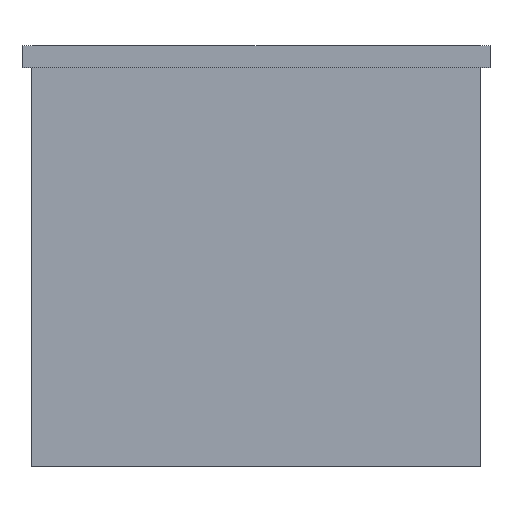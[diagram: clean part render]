
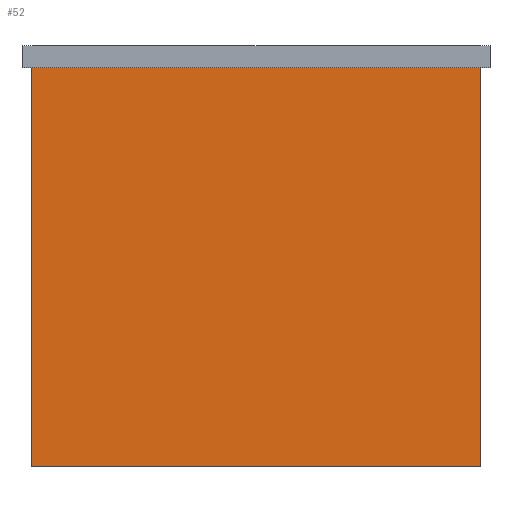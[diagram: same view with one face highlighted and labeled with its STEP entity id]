
A CAD part, front view. The second image highlights one B-rep face of the part: STEP entity #52.
In plain terms, the highlighted planar face has unit normal (0, -1, 0).
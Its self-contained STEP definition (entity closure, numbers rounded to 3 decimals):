
#51 = VERTEX_POINT ( 'NONE', #255 ) ;
#52 = ADVANCED_FACE ( 'NONE', ( #2566 ), #1939, .T. ) ;
#99 = ORIENTED_EDGE ( 'NONE', *, *, #2100, .T. ) ;
#215 = CARTESIAN_POINT ( 'NONE',  ( -45.25, -21.6, -85. ) ) ;
#229 = CARTESIAN_POINT ( 'NONE',  ( 45.25, -21.6, -85. ) ) ;
#255 = CARTESIAN_POINT ( 'NONE',  ( -45.25, -21.6, -4.5 ) ) ;
#352 = VERTEX_POINT ( 'NONE', #595 ) ;
#446 = EDGE_CURVE ( 'NONE', #683, #51, #1159, .T. ) ;
#556 = EDGE_CURVE ( 'NONE', #51, #352, #2646, .T. ) ;
#595 = CARTESIAN_POINT ( 'NONE',  ( 45.25, -21.6, -4.5 ) ) ;
#672 = CARTESIAN_POINT ( 'NONE',  ( -45.25, -21.6, -85. ) ) ;
#683 = VERTEX_POINT ( 'NONE', #215 ) ;
#727 = ORIENTED_EDGE ( 'NONE', *, *, #1754, .T. ) ;
#734 = DIRECTION ( 'NONE',  ( 0., 0., -1. ) ) ;
#802 = DIRECTION ( 'NONE',  ( 0., 0., 1. ) ) ;
#1003 = VECTOR ( 'NONE', #802, 1000. ) ;
#1144 = VERTEX_POINT ( 'NONE', #2027 ) ;
#1159 = LINE ( 'NONE', #1817, #1003 ) ;
#1185 = EDGE_LOOP ( 'NONE', ( #727, #1264, #2068, #99 ) ) ;
#1259 = LINE ( 'NONE', #2176, #1753 ) ;
#1264 = ORIENTED_EDGE ( 'NONE', *, *, #556, .F. ) ;
#1284 = AXIS2_PLACEMENT_3D ( 'NONE', #672, #1930, #734 ) ;
#1324 = DIRECTION ( 'NONE',  ( 1., 0., 0. ) ) ;
#1539 = LINE ( 'NONE', #229, #2011 ) ;
#1753 = VECTOR ( 'NONE', #1324, 1000. ) ;
#1754 = EDGE_CURVE ( 'NONE', #1144, #352, #1539, .T. ) ;
#1817 = CARTESIAN_POINT ( 'NONE',  ( -45.25, -21.6, -85. ) ) ;
#1930 = DIRECTION ( 'NONE',  ( 0., -1., 0. ) ) ;
#1939 = PLANE ( 'NONE',  #1284 ) ;
#1954 = CARTESIAN_POINT ( 'NONE',  ( -45.25, -21.6, -4.5 ) ) ;
#2011 = VECTOR ( 'NONE', #2499, 1000. ) ;
#2027 = CARTESIAN_POINT ( 'NONE',  ( 45.25, -21.6, -85. ) ) ;
#2068 = ORIENTED_EDGE ( 'NONE', *, *, #446, .F. ) ;
#2100 = EDGE_CURVE ( 'NONE', #683, #1144, #1259, .T. ) ;
#2160 = VECTOR ( 'NONE', #2477, 1000. ) ;
#2176 = CARTESIAN_POINT ( 'NONE',  ( -45.25, -21.6, -85. ) ) ;
#2477 = DIRECTION ( 'NONE',  ( 1., 0., 0. ) ) ;
#2499 = DIRECTION ( 'NONE',  ( 0., 0., 1. ) ) ;
#2566 = FACE_OUTER_BOUND ( 'NONE', #1185, .T. ) ;
#2646 = LINE ( 'NONE', #1954, #2160 ) ;
